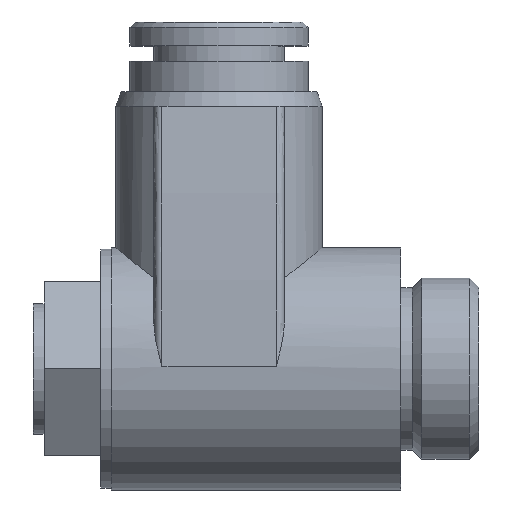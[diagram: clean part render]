
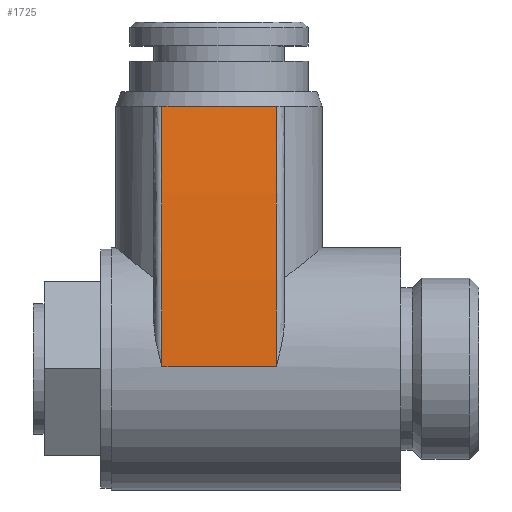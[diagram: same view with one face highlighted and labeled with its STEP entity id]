
A CAD part, top view. The second image highlights one B-rep face of the part: STEP entity #1725.
In plain terms, the highlighted cylindrical face has radius 200 mm (diameter 400 mm), a partial arc.
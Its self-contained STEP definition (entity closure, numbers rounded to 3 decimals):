
#250=CARTESIAN_POINT('',(-7.45,-1.558,-188.844));
#251=DIRECTION('',(-1.,0.,0.));
#252=DIRECTION('',(0.,0.009,1.));
#253=AXIS2_PLACEMENT_3D('',#250,#251,#252);
#255=DIRECTION('',(1.,0.,0.));
#256=VECTOR('',#255,5.25);
#257=CARTESIAN_POINT('',(-7.45,24.126,9.5));
#258=LINE('9026',#257,#256);
#259=DIRECTION('',(1.,0.,0.));
#260=VECTOR('',#259,5.25);
#261=CARTESIAN_POINT('',(-2.2,24.126,9.5));
#262=LINE('9027',#261,#260);
#263=CARTESIAN_POINT('',(3.05,-1.558,-188.844));
#264=DIRECTION('',(1.,0.,0.));
#265=DIRECTION('',(0.,0.128,0.992));
#266=AXIS2_PLACEMENT_3D('',#263,#264,#265);
#363=CARTESIAN_POINT('',(-7.45,24.126,9.5));
#486=DIRECTION('',(1.,0.,0.));
#487=VECTOR('',#486,10.5);
#488=CARTESIAN_POINT('',(-7.45,0.184,11.148));
#489=LINE('9221',#488,#487);
#1399=CARTESIAN_POINT('',(-2.2,24.126,9.5));
#1401=VERTEX_POINT('',#1399);
#1453=VERTEX_POINT('',#363);
#1454=CARTESIAN_POINT('',(-7.45,0.184,11.148));
#1455=VERTEX_POINT('',#1454);
#1458=CARTESIAN_POINT('',(3.05,24.126,9.5));
#1459=CARTESIAN_POINT('',(3.05,0.184,11.148));
#1460=VERTEX_POINT('',#1458);
#1461=VERTEX_POINT('',#1459);
#1709=CARTESIAN_POINT('',(-8.2,-1.558,-188.844));
#1710=DIRECTION('',(1.,0.,0.));
#1711=DIRECTION('',(0.,-1.,0.));
#1712=AXIS2_PLACEMENT_3D('',#1709,#1710,#1711);
#1713=CYLINDRICAL_SURFACE('8141',#1712,200.);
#1715=ORIENTED_EDGE('8996',*,*,#1714,.T.);
#1717=ORIENTED_EDGE('9026',*,*,#1716,.T.);
#1719=ORIENTED_EDGE('9027',*,*,#1718,.T.);
#1720=ORIENTED_EDGE('9000',*,*,#1699,.T.);
#1722=ORIENTED_EDGE('9221',*,*,#1721,.F.);
#1723=EDGE_LOOP('8141',(#1715,#1717,#1719,#1720,#1722));
#1724=FACE_OUTER_BOUND('8141',#1723,.F.);
#1725=ADVANCED_FACE('8141',(#1724),#1713,.T.);
#254=CIRCLE('8996',#253,200.);
#267=CIRCLE('9000',#266,200.);
#1699=EDGE_CURVE('9000',#1460,#1461,#267,.T.);
#1714=EDGE_CURVE('8996',#1455,#1453,#254,.T.);
#1716=EDGE_CURVE('9026',#1453,#1401,#258,.T.);
#1718=EDGE_CURVE('9027',#1401,#1460,#262,.T.);
#1721=EDGE_CURVE('9221',#1455,#1461,#489,.T.);
